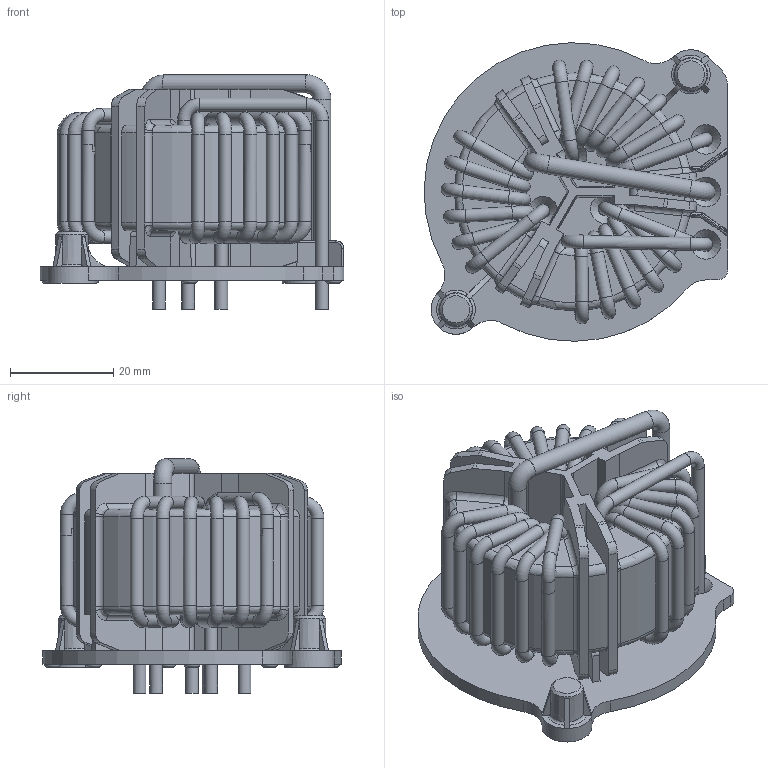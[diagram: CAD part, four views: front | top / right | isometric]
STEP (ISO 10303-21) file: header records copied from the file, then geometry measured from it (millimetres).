
FILE_DESCRIPTION((''),'2;1');
FILE_NAME('K:\Development\Projects\RB\Angel_standard choke series 2011\70_Realization_Revision\702_MechanicalDesign\RB6132-25-0M5.stp','2012-11-05T14:10:11',('BIN.FAN'),(''),'Autodesk Inventor 2010','Autodesk Inventor 2010','');
FILE_SCHEMA(('AUTOMOTIVE_DESIGN { 1 0 10303 214 1 1 1 1 }'));
Length unit declared in the file: millimetre
Products named in the file (1): RB6132-25-0M5 for customer_包覆面提取_1
Bounding box: 58.79 x 57.79 x 45.35 mm (x, y, z)
Volume: 45428.9 mm3; surface area: 32310.8 mm2
Topology: 1 solids, 1 shells, 953 faces, 2729 edges, 1705 vertices
Faces by surface type: plane 428, cylinder 243, torus 177, bspline 71, cone 32, sphere 2
Full cylindrical faces by diameter (mm): 2.5 x70, 2.7 x6, 3 x9, 3.5 x2, 9.6 x2
Entity records: 34999 total; most frequent: CARTESIAN_POINT 11277, ORIENTED_EDGE 4960, DIRECTION 4362, EDGE_CURVE 2480, AXIS2_PLACEMENT_3D 1618, VERTEX_POINT 1602, EDGE_LOOP 1134, VECTOR 1126
